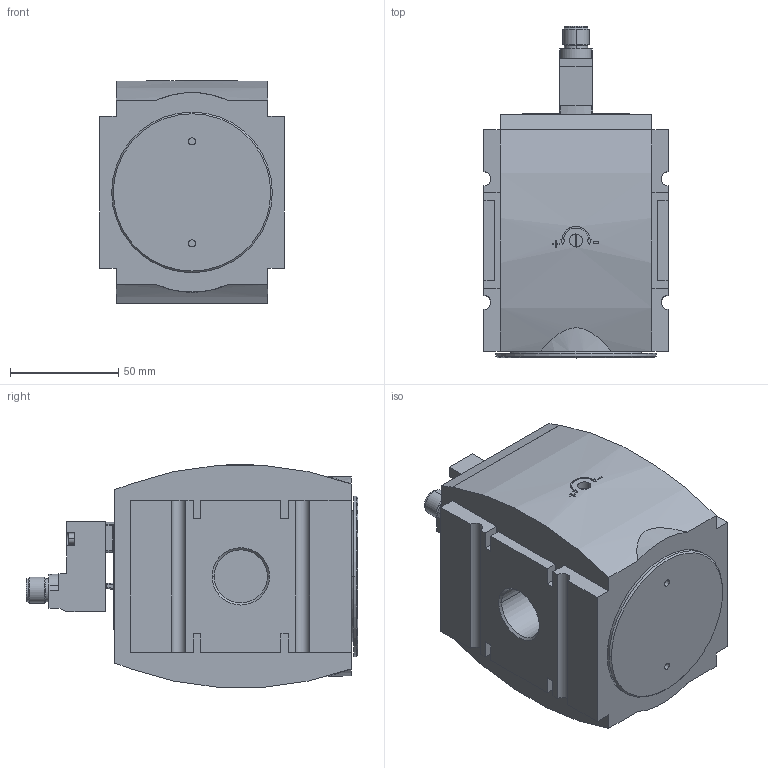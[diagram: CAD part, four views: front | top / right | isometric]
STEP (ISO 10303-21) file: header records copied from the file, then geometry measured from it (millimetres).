
FILE_DESCRIPTION((''),'2;1');
FILE_NAME('R412009373_ASM','2015-05-12T',('pma1hc'),(''),'PRO/ENGINEER BY PARAMETRIC TECHNOLOGY CORPORATION, 2011490','PRO/ENGINEER BY PARAMETRIC TECHNOLOGY CORPORATION, 2011490','');
FILE_SCHEMA(('AUTOMOTIVE_DESIGN_CC2 { 1 2 10303 214 -1 1 5 2 }'));
Length unit declared in the file: millimetre
Products named in the file (2): R412009373; R412009373_ASM
Assembly tree (1 placements, depth 2):
  R412009373_ASM
    R412009373
Bounding box: 85 x 152.95 x 102.64 mm (x, y, z)
Volume: 841752.7 mm3; surface area: 68910.1 mm2
Topology: 1 solids, 3 shells, 257 faces, 680 edges, 449 vertices
Faces by surface type: plane 153, cylinder 77, cone 12, bspline 6, torus 5, sphere 4
Entity records: 13108 total; most frequent: CARTESIAN_POINT 2206, DIRECTION 1367, ORIENTED_EDGE 1352, PRESENTATION_STYLE_ASSIGNMENT 871, STYLED_ITEM 677, CURVE_STYLE 676, EDGE_CURVE 676, AXIS2_PLACEMENT_3D 470
